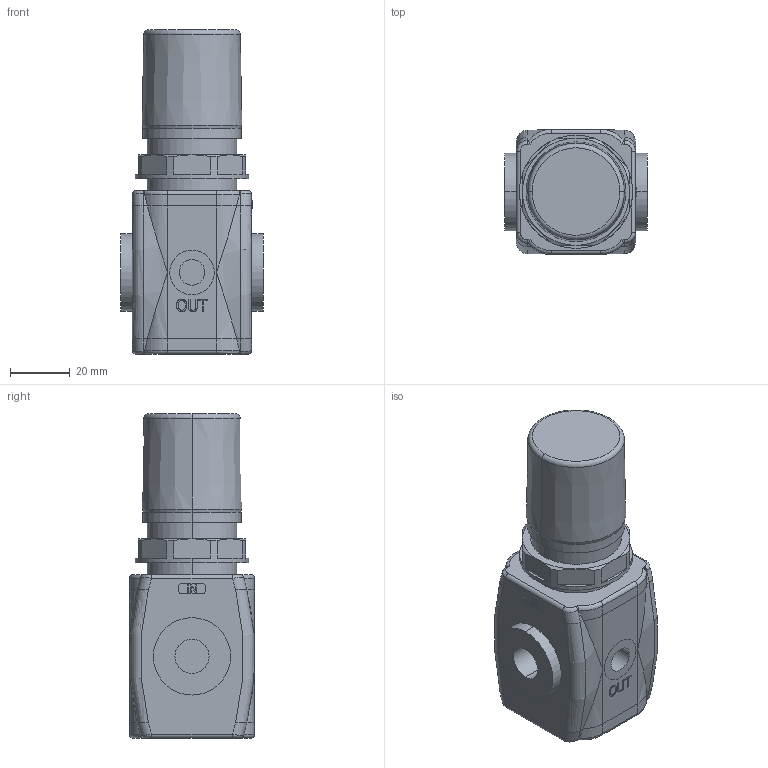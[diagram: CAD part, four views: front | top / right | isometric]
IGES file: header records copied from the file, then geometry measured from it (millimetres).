
Global section: file name: No Iges File Name specified; native system: Autodesk Inventor 2010; preprocessor: AutoDesk Inventor Iges Exporter R2010; author: valotma1; date: 20100911.094303; units: millimetre
Bounding box: 48 x 42 x 109 mm (x, y, z)
Volume: 136812 mm3; surface area: 23367.1 mm2
Topology: 4 solids, 4 shells, 363 faces, 880 edges, 564 vertices
Faces by surface type: plane 159, bspline 86, cylinder 54, revolution 32, torus 22, cone 10
